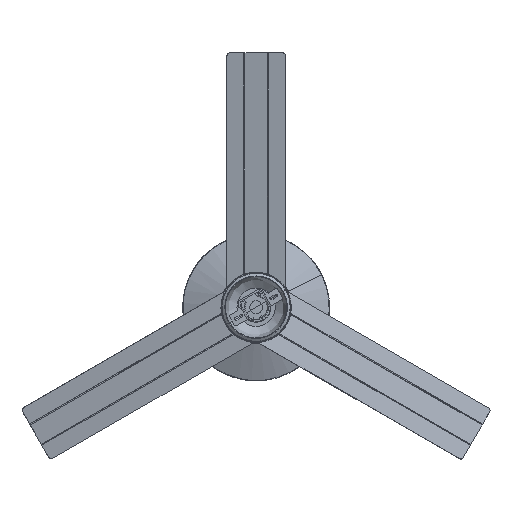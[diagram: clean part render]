
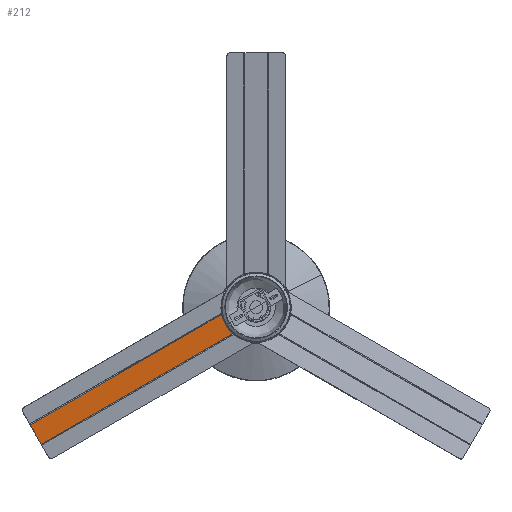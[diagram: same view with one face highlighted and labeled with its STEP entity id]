
A CAD part, top view. The second image highlights one B-rep face of the part: STEP entity #212.
In plain terms, the highlighted planar face has unit normal (0.113, -0.195, 0.974).
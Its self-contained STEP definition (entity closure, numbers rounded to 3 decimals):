
#100=FACE_BOUND('',#1963,.T.);
#212=ADVANCED_FACE('',(#1086,#100),#14844,.T.);
#1086=FACE_OUTER_BOUND('',#1962,.T.);
#1962=EDGE_LOOP('',(#3140,#3141,#3142,#3143));
#1963=EDGE_LOOP('',(#3144,#3145));
#3140=ORIENTED_EDGE('',*,*,#7877,.T.);
#3141=ORIENTED_EDGE('',*,*,#7865,.F.);
#3142=ORIENTED_EDGE('',*,*,#7866,.T.);
#3143=ORIENTED_EDGE('',*,*,#7867,.F.);
#3144=ORIENTED_EDGE('',*,*,#7823,.T.);
#3145=ORIENTED_EDGE('',*,*,#7825,.T.);
#7823=EDGE_CURVE('',#13296,#13295,#10385,.T.);
#7825=EDGE_CURVE('',#13295,#13296,#10386,.T.);
#7865=EDGE_CURVE('',#13247,#13254,#11536,.T.);
#7866=EDGE_CURVE('',#13247,#13246,#10393,.T.);
#7867=EDGE_CURVE('',#13310,#13246,#11537,.T.);
#7877=EDGE_CURVE('',#13310,#13254,#11544,.T.);
#10385=TRIMMED_CURVE($,#10917,(#19418),(#19419),.T.,.CARTESIAN.);
#10386=TRIMMED_CURVE($,#10918,(#19423),(#19424),.T.,.CARTESIAN.);
#10393=TRIMMED_CURVE($,#10925,(#19543),(#19544),.T.,.CARTESIAN.);
#10917=CIRCLE('',#15775,2.6);
#10918=CIRCLE('',#15776,2.6);
#10925=CIRCLE('',#15783,56.);
#11536=B_SPLINE_CURVE_WITH_KNOTS('',1,(#19540,#19541),.UNSPECIFIED.,.F.,
 .F.,(2,2),(-479.414,0.),.UNSPECIFIED.);
#11537=B_SPLINE_CURVE_WITH_KNOTS('',1,(#19545,#19546),.UNSPECIFIED.,.F.,
 .F.,(2,2),(-479.372,0.),.UNSPECIFIED.);
#11544=B_SPLINE_CURVE_WITH_KNOTS('',1,(#19568,#19569),.UNSPECIFIED.,.F.,
 .F.,(2,2),(-48.,0.),.UNSPECIFIED.);
#13246=VERTEX_POINT('',#19054);
#13247=VERTEX_POINT('',#19055);
#13254=VERTEX_POINT('',#19062);
#13295=VERTEX_POINT('',#19103);
#13296=VERTEX_POINT('',#19104);
#13310=VERTEX_POINT('',#19118);
#14844=PLANE('',#15759);
#15759=AXIS2_PLACEMENT_3D('',#18990,#17107,$);
#15775=AXIS2_PLACEMENT_3D($,#19417,#17133,#17134);
#15776=AXIS2_PLACEMENT_3D($,#19422,#17135,#17136);
#15783=AXIS2_PLACEMENT_3D($,#19542,#17149,#17150);
#17107=DIRECTION('',(0.112,-0.195,0.974));
#17133=DIRECTION('',(-0.112,0.195,-0.974));
#17134=DIRECTION('',(0.487,-0.844,-0.225));
#17135=DIRECTION('',(-0.112,0.195,-0.974));
#17136=DIRECTION('',(-0.487,0.844,0.225));
#17149=DIRECTION('',(-0.112,0.195,-0.974));
#17150=DIRECTION('',(-0.573,-0.814,-0.097));
#18990=CARTESIAN_POINT('',(19302.964,-1976.18,72.907));
#19054=CARTESIAN_POINT('',(19762.143,-1716.635,71.795));
#19055=CARTESIAN_POINT('',(19785.564,-1757.118,60.998));
#19062=CARTESIAN_POINT('',(19370.379,-1996.825,60.998));
#19103=CARTESIAN_POINT('',(19758.36,-1742.848,66.991));
#19104=CARTESIAN_POINT('',(19760.893,-1747.236,65.821));
#19118=CARTESIAN_POINT('',(19346.995,-1956.321,71.795));
#19417=CARTESIAN_POINT('',(19759.626,-1745.042,66.406));
#19418=CARTESIAN_POINT('',(19760.893,-1747.236,65.821));
#19419=CARTESIAN_POINT('',(19758.36,-1742.848,66.991));
#19422=CARTESIAN_POINT('',(19759.626,-1745.042,66.406));
#19423=CARTESIAN_POINT('',(19758.36,-1742.848,66.991));
#19424=CARTESIAN_POINT('',(19760.893,-1747.236,65.821));
#19540=CARTESIAN_POINT('',(19785.564,-1757.118,60.998));
#19541=CARTESIAN_POINT('',(19370.379,-1996.825,60.998));
#19542=CARTESIAN_POINT('',(19817.65,-1711.542,66.406));
#19543=CARTESIAN_POINT('',(19785.564,-1757.118,60.998));
#19544=CARTESIAN_POINT('',(19762.143,-1716.635,71.795));
#19545=CARTESIAN_POINT('',(19346.995,-1956.321,71.795));
#19546=CARTESIAN_POINT('',(19762.143,-1716.635,71.795));
#19568=CARTESIAN_POINT('',(19346.995,-1956.321,71.795));
#19569=CARTESIAN_POINT('',(19370.379,-1996.825,60.998));
